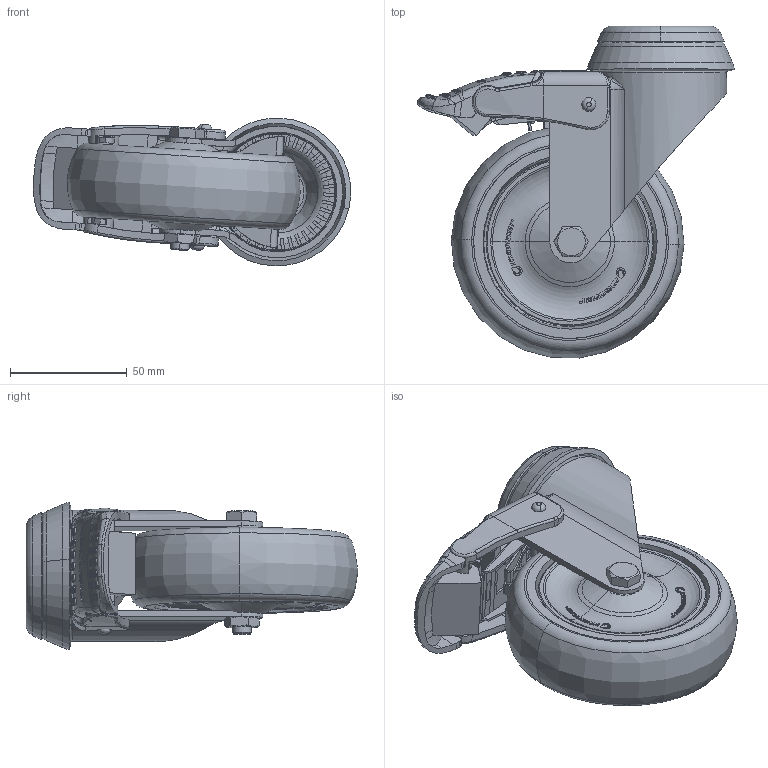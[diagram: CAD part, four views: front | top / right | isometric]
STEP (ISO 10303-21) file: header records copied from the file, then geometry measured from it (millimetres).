
FILE_DESCRIPTION (( 'STEP AP203' ), '1' );
FILE_NAME ('301545_STEP.STEP', '2013-07-29T11:55:33', ( 'admin' ), ( 'Hewlett-Packard Company' ), 'SwSTEP 2.0', 'SolidWorks 2011', '' );
FILE_SCHEMA (( 'CONFIG_CONTROL_DESIGN' ));
Length unit declared in the file: millimetre
Products named in the file (1): 301545_STEP
Bounding box: 136.07 x 142.31 x 63.32 mm (x, y, z)
Volume: 228106.2 mm3; surface area: 140288.3 mm2
Topology: 18 solids, 18 shells, 2419 faces, 6514 edges, 4238 vertices
Faces by surface type: plane 1239, cylinder 565, bspline 421, torus 97, cone 95, sphere 2
Entity records: 105338 total; most frequent: CARTESIAN_POINT 50414, ORIENTED_EDGE 13016, DIRECTION 8974, EDGE_CURVE 6508, VERTEX_POINT 4238, AXIS2_PLACEMENT_3D 3056, LINE 2862, VECTOR 2862
